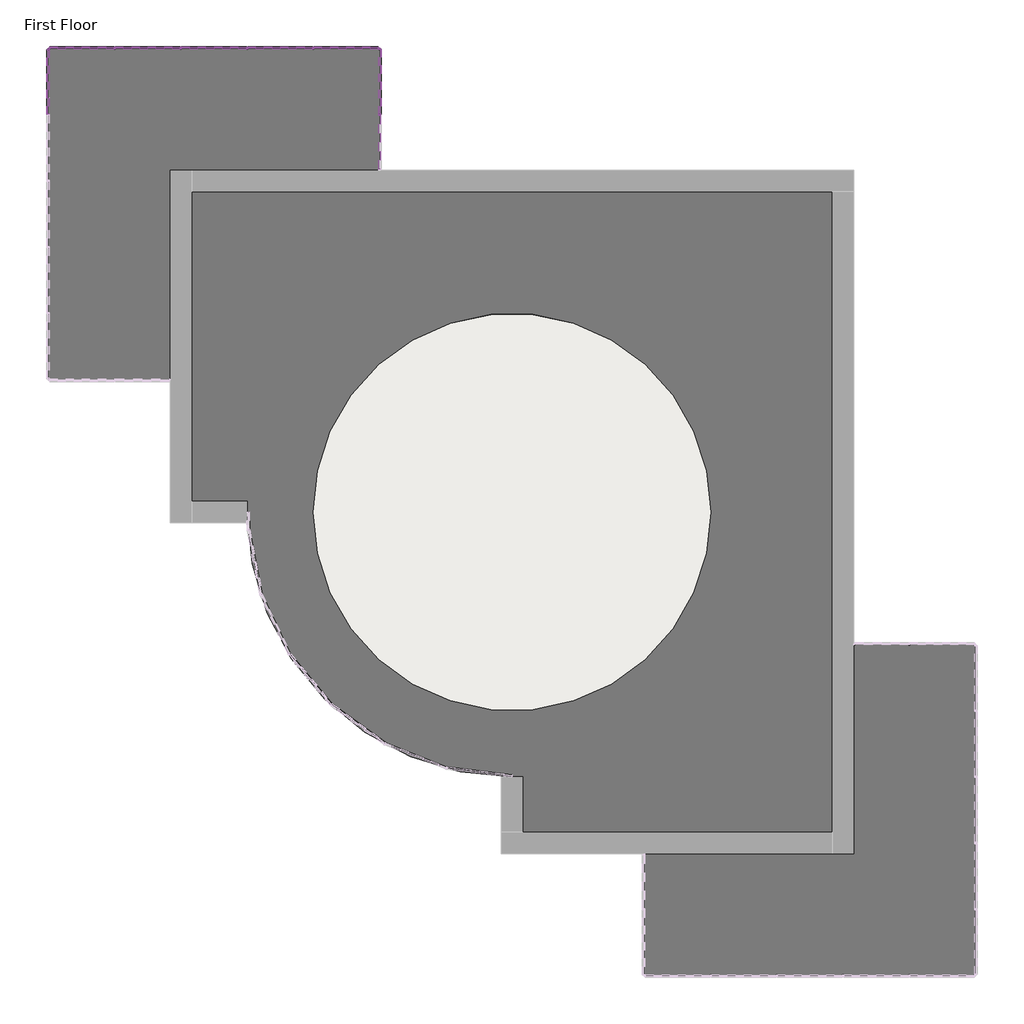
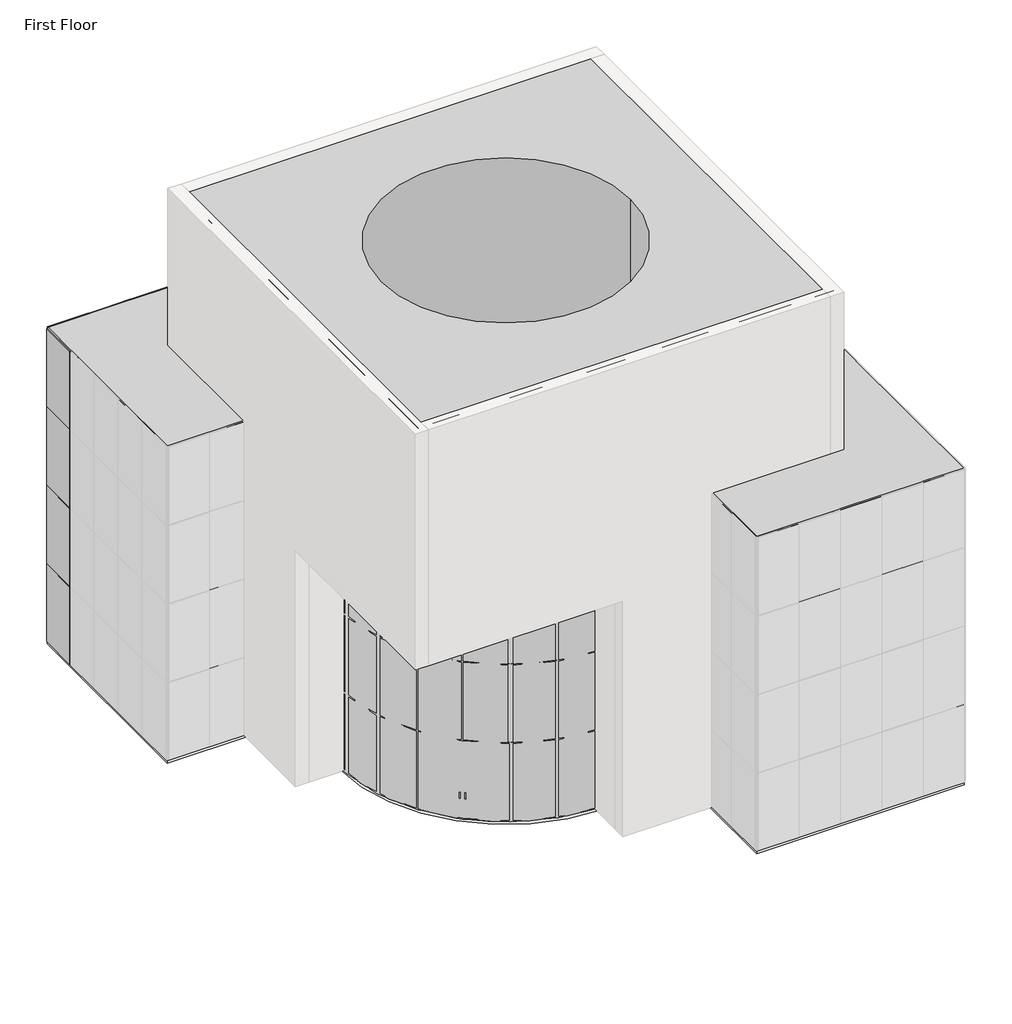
# One storey, part 4 of 4: 76 members, 28 plates, 4 slabs, 2 proxies.
"""IFC4 building model written with IfcOpenShell, lengths in millimetres."""

from ifc_helpers import new_model, si_unit, point, frame, frame_2d, origin, origin_with_axes, place, context, project, spatial, polyline, circle_curve, trimmed, segment, composite_curve, outline, extrude, transform, mapped, element, save
from ifc_brep_helpers import plane_surface, cylinder_surface, revolved_surface, advanced_brep
from components import member_5e617a80, member_74941792, member_cbdb9076, member_7e523723, member_9fd3d903, member_6604d1e0, member_e0356dda, member_be0b070d, system_panel_glazed_9b7d687a, system_panel_glazed_9a901b4a, system_panel_glazed_2d5e1d3d, system_panel_glazed_37964ea6

model = new_model("IFC4")

# Units and contexts
model_context = context("Model", 3, world=origin())
ifc_project = project(units=[si_unit("LENGTHUNIT", "METRE", prefix="MILLI")], contexts=[model_context])

# Site, building, storey
site = spatial("IfcSite", under=ifc_project)
building = spatial("IfcBuilding", under=site)
storey = spatial("IfcBuildingStorey", under=building, Name="First Floor", Elevation=0.0)

# Proxies
placement = place(None, origin())
element("IfcBuildingElementProxy", 1, Name="Central Hall : Central Hall", ObjectType="Central Hall : Central Hall", at=placement, inside=storey, context=model_context, shape_type="AdvancedBrep", body=[
    advanced_brep(
    [(5148.8943843, 6934.0139224, 18288.0), (-10091.1056157, 6934.0139224, 18288.0), (-10091.1056157, -8305.9860776, 18288.0), (5148.8943843, -8305.9860776, 18288.0), (2100.8943843, -685.9860776, 18288.0), (-7043.1056157, -685.9860776, 18288.0), (5148.8943843, 6934.0139224, 0.0), (5148.8943843, -8305.9860776, 0.0), (-2471.1056157, -8305.9860776, 0.0), (-2471.1056157, -6781.9860776, 0.0), (-8567.1056157, -685.9860776, 0.0), (-10091.1056157, -685.9860776, 0.0), (-10091.1056157, 6934.0139224, 0.0), (-7043.1056157, -685.9860776, 0.0), (2100.8943843, -685.9860776, 0.0), (-10091.1056157, -685.9860776, 9144.0), (-10091.1056157, -8305.9860776, 9144.0), (-2471.1056157, -8305.9860776, 9144.0), (-2471.1056157, -6781.9860776, 9144.0), (-8567.1056157, -685.9860776, 9144.0)],
    [
        (0, 1),
        (1, 2),
        (2, 3),
        (3, 0),
        (4, 5, circle_curve(frame((-2471.1056157, -685.9860776, 18288.0), z_axis=(0.0, 0.0, -1.0), x_axis=(1.0, 0.0, 0.0)), 4572.0)),
        (5, 4, circle_curve(frame((-2471.1056157, -685.9860776, 18288.0), z_axis=(0.0, 0.0, -1.0), x_axis=(1.0, 0.0, 0.0)), 4572.0)),
        (6, 7),
        (7, 8),
        (8, 9),
        (9, 10, circle_curve(frame((-2471.1056157, -685.9860776, 0.0), z_axis=(0.0, 0.0, -1.0), x_axis=(1.0, 0.0, 0.0)), 6096.0)),
        (10, 11),
        (11, 12),
        (12, 6),
        (13, 14, circle_curve(frame((-2471.1056157, -685.9860776, 0.0), z_axis=(0.0, 0.0, 1.0), x_axis=(1.0, 0.0, 0.0)), 4572.0)),
        (14, 13, circle_curve(frame((-2471.1056157, -685.9860776, 0.0), z_axis=(0.0, 0.0, 1.0), x_axis=(1.0, 0.0, 0.0)), 4572.0)),
        (0, 6),
        (12, 1),
        (11, 15),
        (15, 16),
        (16, 2),
        (16, 17),
        (17, 8),
        (7, 3),
        (4, 14),
        (13, 5),
        (18, 17),
        (15, 19),
        (19, 18, circle_curve(frame((-2471.1056157, -685.9860776, 9144.0), z_axis=(0.0, 0.0, 1.0), x_axis=(1.0, 0.0, 0.0)), 6096.0)),
        (19, 10),
        (9, 18),
    ],
    [
        plane_surface(frame((-10091.1056157, 6934.0139224, 18288.0), z_axis=(0.0, 0.0, 1.0), x_axis=(-1.0, 0.0, 0.0))),
        plane_surface(frame((-10091.1056157, 6934.0139224, 0.0), z_axis=(0.0, 0.0, -1.0), x_axis=(1.0, 0.0, 0.0))),
        plane_surface(frame((5148.8943843, 6934.0139224, 18288.0), z_axis=(0.0, 1.0, 0.0), x_axis=(0.0, 0.0, -1.0))),
        plane_surface(frame((-10091.1056157, 6934.0139224, 18288.0), z_axis=(-1.0, 0.0, 0.0), x_axis=(0.0, 0.0, -1.0))),
        plane_surface(frame((-10091.1056157, -8305.9860776, 18288.0), z_axis=(0.0, -1.0, 0.0), x_axis=(0.0, 0.0, -1.0))),
        plane_surface(frame((5148.8943843, -8305.9860776, 18288.0), z_axis=(1.0, 0.0, 0.0), x_axis=(0.0, 0.0, -1.0))),
        revolved_surface(polyline([(2100.8943843, -685.9860776, 18288.0), (2100.8943843, -685.9860776, 0.0)]), (-2471.1056157, -685.9860776, 0.0), (0.0, 0.0, 1.0)),
        plane_surface(frame((3624.8943843, -685.9860776, 9144.0), z_axis=(0.0, 0.0, -1.0), x_axis=(0.0, -1.0, 0.0))),
        cylinder_surface(frame((-2471.1056157, -685.9860776, 0.0), z_axis=(0.0, 0.0, -1.0), x_axis=(1.0, 0.0, 0.0)), 6096.0),
        plane_surface(frame((-8567.1056157, -685.9860776, 9144.0), z_axis=(0.0, -1.0, 0.0), x_axis=(0.0, 0.0, -1.0))),
        plane_surface(frame((-2471.1056157, -8305.9860776, 9144.0), z_axis=(-1.0, 0.0, 0.0), x_axis=(0.0, 0.0, -1.0))),
    ],
    [
        (0, [[1, 2, 3, 4], [5, 6]]),
        (1, [[7, 8, 9, 10, 11, 12, 13], [14, 15]]),
        (2, [[-1, 16, -13, 17]]),
        (3, [[-2, -17, -12, 18, 19, 20]]),
        (4, [[-3, -20, 21, 22, -8, 23]]),
        (5, [[-4, -23, -7, -16]]),
        (6, [[24, -14, 25, -5]]),
        (6, [[-24, -6, -25, -15]]),
        (7, [[26, -21, -19, 27, 28]]),
        (8, [[-28, 29, -10, 30]]),
        (9, [[-27, -18, -11, -29]]),
        (10, [[-26, -30, -9, -22]]),
    ],
),
])
element("IfcBuildingElementProxy", 2, Name="Wings : Wings", ObjectType="Wings : Wings", at=placement, inside=storey, context=model_context, shape_type="SweptSolid", body=[
    extrude(outline(polyline([(8196.8943843, -3733.9860776), (8196.8943843, -11353.9860776), (576.8943843, -11353.9860776), (576.8943843, -8305.9860776), (5148.8943843, -8305.9860776), (5148.8943843, -3733.9860776), (8196.8943843, -3733.9860776)])), origin_with_axes(), (0.0, 0.0, 1.0), 12192.0),
    extrude(outline(polyline([(-5519.1056157, 9982.0139224), (-5519.1056157, 6934.0139224), (-10091.1056157, 6934.0139224), (-10091.1056157, 2362.0139224), (-13139.1056157, 2362.0139224), (-13139.1056157, 9982.0139224), (-5519.1056157, 9982.0139224)])), origin_with_axes(), (0.0, 0.0, 1.0), 12192.0),
])

# Members
member_shape = member_5e617a80(model_context)
element("IfcMember", 3, ObjectType="Rectangular Mullion : 1\" Square", at=placement, inside=storey, context=model_context, shape_type="MappedRepresentation", body=[
    mapped(member_shape, transform((-13139.1056157, 8470.7139224, 9144.0), x_axis=(0.0, 0.0, 1.0), y_axis=(-1.0, 0.0, 0.0), z_axis=(0.0, -1.0, 0.0))),
])
element("IfcMember", 4, ObjectType="Rectangular Mullion : 1\" Square", at=placement, inside=storey, context=model_context, shape_type="MappedRepresentation", body=[
    mapped(member_shape, transform((-7030.4056157, 9982.0139224, 3048.0), x_axis=(0.0, 0.0, 1.0), y_axis=(0.0, 1.0, 0.0), z_axis=(-1.0, 0.0, 0.0))),
])
element("IfcMember", 5, ObjectType="Rectangular Mullion : 1\" Square", at=placement, inside=storey, context=model_context, shape_type="MappedRepresentation", body=[
    mapped(member_shape, transform((-13113.7056157, 9982.0139224, 3048.0), x_axis=(0.0, 0.0, 1.0), y_axis=(0.0, 1.0, 0.0), z_axis=(-1.0, 0.0, 0.0))),
])
element("IfcMember", 6, ObjectType="Rectangular Mullion : 1\" Square", at=placement, inside=storey, context=model_context, shape_type="MappedRepresentation", body=[
    mapped(member_shape, transform((-7030.4056157, 9982.0139224, 6096.0), x_axis=(0.0, 0.0, 1.0), y_axis=(0.0, 1.0, 0.0), z_axis=(-1.0, 0.0, 0.0))),
])
element("IfcMember", 7, ObjectType="Rectangular Mullion : 1\" Square", at=placement, inside=storey, context=model_context, shape_type="MappedRepresentation", body=[
    mapped(member_shape, transform((-13113.7056157, 9982.0139224, 6096.0), x_axis=(0.0, 0.0, 1.0), y_axis=(0.0, 1.0, 0.0), z_axis=(-1.0, 0.0, 0.0))),
])
element("IfcMember", 8, ObjectType="Rectangular Mullion : 1\" Square", at=placement, inside=storey, context=model_context, shape_type="MappedRepresentation", body=[
    mapped(member_shape, transform((-7030.4056157, 9982.0139224, 9144.0), x_axis=(0.0, 0.0, 1.0), y_axis=(0.0, 1.0, 0.0), z_axis=(-1.0, 0.0, 0.0))),
])
element("IfcMember", 9, ObjectType="Rectangular Mullion : 1\" Square", at=placement, inside=storey, context=model_context, shape_type="MappedRepresentation", body=[
    mapped(member_shape, transform((-13113.7056157, 9982.0139224, 9144.0), x_axis=(0.0, 0.0, 1.0), y_axis=(0.0, 1.0, 0.0), z_axis=(-1.0, 0.0, 0.0))),
])
member_2_shape = member_74941792(model_context)
element("IfcMember", 10, ObjectType="Rectangular Mullion : 1\" Square", at=placement, inside=storey, context=model_context, shape_type="MappedRepresentation", body=[
    mapped(member_2_shape, transform((-13113.7056157, 9982.0139224, 12192.0), x_axis=(0.0, 0.0, 1.0), y_axis=(0.0, 1.0, 0.0), z_axis=(-1.0, 0.0, 0.0))),
])
element("IfcMember", 11, ObjectType="Rectangular Mullion : 1\" Square", at=placement, inside=storey, context=model_context, shape_type="MappedRepresentation", body=[
    mapped(member_2_shape, transform((-7030.4056157, 9982.0139224, 12192.0), x_axis=(0.0, 0.0, 1.0), y_axis=(0.0, 1.0, 0.0), z_axis=(-1.0, 0.0, 0.0))),
])
member_3_shape = member_cbdb9076(model_context)
element("IfcMember", 12, ObjectType="Rectangular Mullion : 1\" Square", at=placement, inside=storey, context=model_context, shape_type="MappedRepresentation", body=[
    mapped(member_3_shape, transform((-8567.1056157, 9982.0139224, 6096.0), x_axis=(-1.0, 0.0, 0.0), y_axis=(0.0, 1.0, 0.0), z_axis=(0.0, 0.0, -1.0))),
])
element("IfcMember", 13, ObjectType="Rectangular Mullion : 1\" Square", at=placement, inside=storey, context=model_context, shape_type="MappedRepresentation", body=[
    mapped(member_3_shape, transform((-10091.1056157, 9982.0139224, 3048.0), x_axis=(-1.0, 0.0, 0.0), y_axis=(0.0, 1.0, 0.0), z_axis=(0.0, 0.0, -1.0))),
])
element("IfcMember", 14, ObjectType="Rectangular Mullion : 1\" Square", at=placement, inside=storey, context=model_context, shape_type="MappedRepresentation", body=[
    mapped(member_3_shape, transform((-10091.1056157, 9982.0139224, 6096.0), x_axis=(-1.0, 0.0, 0.0), y_axis=(0.0, 1.0, 0.0), z_axis=(0.0, 0.0, -1.0))),
])
element("IfcMember", 15, ObjectType="Rectangular Mullion : 1\" Square", at=placement, inside=storey, context=model_context, shape_type="MappedRepresentation", body=[
    mapped(member_3_shape, transform((-11615.1056157, 9982.0139224, 3048.0), x_axis=(-1.0, 0.0, 0.0), y_axis=(0.0, 1.0, 0.0), z_axis=(0.0, 0.0, -1.0))),
])
element("IfcMember", 16, ObjectType="Rectangular Mullion : 1\" Square", at=placement, inside=storey, context=model_context, shape_type="MappedRepresentation", body=[
    mapped(member_3_shape, transform((-11615.1056157, 9982.0139224, 6096.0), x_axis=(-1.0, 0.0, 0.0), y_axis=(0.0, 1.0, 0.0), z_axis=(0.0, 0.0, -1.0))),
])
element("IfcMember", 17, ObjectType="Rectangular Mullion : 1\" Square", at=placement, inside=storey, context=model_context, shape_type="MappedRepresentation", body=[
    mapped(member_3_shape, transform((-7043.1056157, 9982.0139224, 3048.0), x_axis=(-1.0, 0.0, 0.0), y_axis=(0.0, 1.0, 0.0), z_axis=(0.0, 0.0, -1.0))),
])
element("IfcMember", 18, ObjectType="Rectangular Mullion : 1\" Square", at=placement, inside=storey, context=model_context, shape_type="MappedRepresentation", body=[
    mapped(member_3_shape, transform((-7043.1056157, 9982.0139224, 6096.0), x_axis=(-1.0, 0.0, 0.0), y_axis=(0.0, 1.0, 0.0), z_axis=(0.0, 0.0, -1.0))),
])
element("IfcMember", 19, ObjectType="Rectangular Mullion : 1\" Square", at=placement, inside=storey, context=model_context, shape_type="MappedRepresentation", body=[
    mapped(member_3_shape, transform((-8567.1056157, 9982.0139224, 3048.0), x_axis=(-1.0, 0.0, 0.0), y_axis=(0.0, 1.0, 0.0), z_axis=(0.0, 0.0, -1.0))),
])
element("IfcMember", 20, ObjectType="Rectangular Mullion : 1\" Square", at=placement, inside=storey, context=model_context, shape_type="MappedRepresentation", body=[
    mapped(member_3_shape, transform((-5519.1056157, 9978.8389224, 3048.0), x_axis=(0.0, 1.0, 0.0), y_axis=(1.0, 0.0, 0.0), z_axis=(0.0, 0.0, -1.0))),
])
element("IfcMember", 21, ObjectType="Rectangular Mullion : 1\" Square", at=placement, inside=storey, context=model_context, shape_type="MappedRepresentation", body=[
    mapped(member_3_shape, transform((-5519.1056157, 9978.8389224, 6096.0), x_axis=(0.0, 1.0, 0.0), y_axis=(1.0, 0.0, 0.0), z_axis=(0.0, 0.0, -1.0))),
])
element("IfcMember", 22, ObjectType="Rectangular Mullion : 1\" Square", at=placement, inside=storey, context=model_context, shape_type="MappedRepresentation", body=[
    mapped(member_3_shape, transform((-5519.1056157, 8454.8389224, 3048.0), x_axis=(0.0, 1.0, 0.0), y_axis=(1.0, 0.0, 0.0), z_axis=(0.0, 0.0, -1.0))),
])
element("IfcMember", 23, ObjectType="Rectangular Mullion : 1\" Square", at=placement, inside=storey, context=model_context, shape_type="MappedRepresentation", body=[
    mapped(member_3_shape, transform((-5519.1056157, 8454.8389224, 6096.0), x_axis=(0.0, 1.0, 0.0), y_axis=(1.0, 0.0, 0.0), z_axis=(0.0, 0.0, -1.0))),
])
element("IfcMember", 24, ObjectType="Rectangular Mullion : 1\" Square", at=placement, inside=storey, context=model_context, shape_type="MappedRepresentation", body=[
    mapped(member_3_shape, transform((-8567.1056157, 9982.0139224, 9144.0), x_axis=(-1.0, 0.0, 0.0), y_axis=(0.0, 1.0, 0.0), z_axis=(0.0, 0.0, -1.0))),
])
element("IfcMember", 25, ObjectType="Rectangular Mullion : 1\" Square", at=placement, inside=storey, context=model_context, shape_type="MappedRepresentation", body=[
    mapped(member_3_shape, transform((-10091.1056157, 9982.0139224, 9144.0), x_axis=(-1.0, 0.0, 0.0), y_axis=(0.0, 1.0, 0.0), z_axis=(0.0, 0.0, -1.0))),
])
element("IfcMember", 26, ObjectType="Rectangular Mullion : 1\" Square", at=placement, inside=storey, context=model_context, shape_type="MappedRepresentation", body=[
    mapped(member_3_shape, transform((-11615.1056157, 9982.0139224, 9144.0), x_axis=(-1.0, 0.0, 0.0), y_axis=(0.0, 1.0, 0.0), z_axis=(0.0, 0.0, -1.0))),
])
element("IfcMember", 27, ObjectType="Rectangular Mullion : 1\" Square", at=placement, inside=storey, context=model_context, shape_type="MappedRepresentation", body=[
    mapped(member_3_shape, transform((-7043.1056157, 9982.0139224, 9144.0), x_axis=(-1.0, 0.0, 0.0), y_axis=(0.0, 1.0, 0.0), z_axis=(0.0, 0.0, -1.0))),
])
element("IfcMember", 28, ObjectType="Rectangular Mullion : 1\" Square", at=placement, inside=storey, context=model_context, shape_type="MappedRepresentation", body=[
    mapped(member_3_shape, transform((-5519.1056157, 9978.8389224, 9144.0), x_axis=(0.0, 1.0, 0.0), y_axis=(1.0, 0.0, 0.0), z_axis=(0.0, 0.0, -1.0))),
])
element("IfcMember", 29, ObjectType="Rectangular Mullion : 1\" Square", at=placement, inside=storey, context=model_context, shape_type="MappedRepresentation", body=[
    mapped(member_3_shape, transform((-5519.1056157, 8454.8389224, 9144.0), x_axis=(0.0, 1.0, 0.0), y_axis=(1.0, 0.0, 0.0), z_axis=(0.0, 0.0, -1.0))),
])
element("IfcMember", 30, ObjectType="Rectangular Mullion : 1\" Square", at=placement, inside=storey, context=model_context, shape_type="MappedRepresentation", body=[
    mapped(member_3_shape, transform((-7043.1056157, 9982.0139224, 0.0), x_axis=(-1.0, 0.0, 0.0), y_axis=(0.0, 1.0, 0.0), z_axis=(0.0, 0.0, -1.0))),
])
element("IfcMember", 31, ObjectType="Rectangular Mullion : 1\" Square", at=placement, inside=storey, context=model_context, shape_type="MappedRepresentation", body=[
    mapped(member_3_shape, transform((-8567.1056157, 9982.0139224, 0.0), x_axis=(-1.0, 0.0, 0.0), y_axis=(0.0, 1.0, 0.0), z_axis=(0.0, 0.0, -1.0))),
])
element("IfcMember", 32, ObjectType="Rectangular Mullion : 1\" Square", at=placement, inside=storey, context=model_context, shape_type="MappedRepresentation", body=[
    mapped(member_3_shape, transform((-10091.1056157, 9982.0139224, 0.0), x_axis=(-1.0, 0.0, 0.0), y_axis=(0.0, 1.0, 0.0), z_axis=(0.0, 0.0, -1.0))),
])
element("IfcMember", 33, ObjectType="Rectangular Mullion : 1\" Square", at=placement, inside=storey, context=model_context, shape_type="MappedRepresentation", body=[
    mapped(member_3_shape, transform((-11615.1056157, 9982.0139224, 0.0), x_axis=(-1.0, 0.0, 0.0), y_axis=(0.0, 1.0, 0.0), z_axis=(0.0, 0.0, -1.0))),
])
element("IfcMember", 34, ObjectType="Rectangular Mullion : 1\" Square", at=placement, inside=storey, context=model_context, shape_type="MappedRepresentation", body=[
    mapped(member_3_shape, transform((-5519.1056157, 9978.8389224, 0.0), x_axis=(0.0, 1.0, 0.0), y_axis=(1.0, 0.0, 0.0), z_axis=(0.0, 0.0, -1.0))),
])
element("IfcMember", 35, ObjectType="Rectangular Mullion : 1\" Square", at=placement, inside=storey, context=model_context, shape_type="MappedRepresentation", body=[
    mapped(member_3_shape, transform((-5519.1056157, 8454.8389224, 0.0), x_axis=(0.0, 1.0, 0.0), y_axis=(1.0, 0.0, 0.0), z_axis=(0.0, 0.0, -1.0))),
])
element("IfcMember", 36, ObjectType="Rectangular Mullion : 1\" Square", at=placement, inside=storey, context=model_context, shape_type="MappedRepresentation", body=[
    mapped(member_2_shape, transform((-13139.1056157, 9956.6139224, 0.0), x_axis=(0.0, 0.0, -1.0), y_axis=(-1.0, 0.0, 0.0), z_axis=(0.0, 1.0, 0.0))),
])
element("IfcMember", 37, ObjectType="Rectangular Mullion : 1\" Square", at=placement, inside=storey, context=model_context, shape_type="MappedRepresentation", body=[
    mapped(member_2_shape, transform((-5544.5056157, 9982.0139224, 0.0), x_axis=(0.0, 0.0, -1.0), y_axis=(0.0, 1.0, 0.0), z_axis=(1.0, 0.0, 0.0))),
])
element("IfcMember", 38, ObjectType="Rectangular Mullion : 1\" Square", at=placement, inside=storey, context=model_context, shape_type="MappedRepresentation", body=[
    mapped(member_2_shape, transform((-11627.8056157, 9982.0139224, 0.0), x_axis=(0.0, 0.0, -1.0), y_axis=(0.0, 1.0, 0.0), z_axis=(1.0, 0.0, 0.0))),
])
member_4_shape = member_7e523723(model_context)
element("IfcMember", 39, ObjectType="Rectangular Mullion : 1\" Square", at=placement, inside=storey, context=model_context, shape_type="MappedRepresentation", body=[
    mapped(member_4_shape, transform((-13139.1056157, 9982.0139224, 12192.0), x_axis=(0.0, 1.0, 0.0), y_axis=(-1.0, 0.0, 0.0), z_axis=(0.0, 0.0, 1.0))),
])
element("IfcMember", 40, ObjectType="Rectangular Mullion : 1\" Square", at=placement, inside=storey, context=model_context, shape_type="MappedRepresentation", body=[
    mapped(member_4_shape, transform((-5519.1056157, 9982.0139224, 12192.0), x_axis=(1.0, 0.0, 0.0), y_axis=(0.0, 1.0, 0.0), z_axis=(0.0, 0.0, 1.0))),
])
element("IfcMember", 41, ObjectType="Rectangular Mullion : 1\" Square", at=placement, inside=storey, context=model_context, shape_type="MappedRepresentation", body=[
    mapped(member_4_shape, transform((-13139.1056157, 9982.0139224, 3048.0), x_axis=(-1.0, 0.0, 0.0), y_axis=(0.0, 1.0, 0.0), z_axis=(0.0, 0.0, -1.0))),
])
element("IfcMember", 42, ObjectType="Rectangular Mullion : 1\" Square", at=placement, inside=storey, context=model_context, shape_type="MappedRepresentation", body=[
    mapped(member_4_shape, transform((-13139.1056157, 9982.0139224, 6096.0), x_axis=(-1.0, 0.0, 0.0), y_axis=(0.0, 1.0, 0.0), z_axis=(0.0, 0.0, -1.0))),
])
element("IfcMember", 43, ObjectType="Rectangular Mullion : 1\" Square", at=placement, inside=storey, context=model_context, shape_type="MappedRepresentation", body=[
    mapped(member_4_shape, transform((-13139.1056157, 9982.0139224, 9144.0), x_axis=(-1.0, 0.0, 0.0), y_axis=(0.0, 1.0, 0.0), z_axis=(0.0, 0.0, -1.0))),
])
element("IfcMember", 44, ObjectType="Rectangular Mullion : 1\" Square", at=placement, inside=storey, context=model_context, shape_type="MappedRepresentation", body=[
    mapped(member_4_shape, transform((-13139.1056157, 9982.0139224, 3048.0), x_axis=(0.0, 1.0, 0.0), y_axis=(-1.0, 0.0, 0.0), z_axis=(0.0, 0.0, 1.0))),
])
element("IfcMember", 45, ObjectType="Rectangular Mullion : 1\" Square", at=placement, inside=storey, context=model_context, shape_type="MappedRepresentation", body=[
    mapped(member_4_shape, transform((-5519.1056157, 9982.0139224, 3048.0), x_axis=(1.0, 0.0, 0.0), y_axis=(0.0, 1.0, 0.0), z_axis=(0.0, 0.0, 1.0))),
])
element("IfcMember", 46, ObjectType="Rectangular Mullion : 1\" Square", at=placement, inside=storey, context=model_context, shape_type="MappedRepresentation", body=[
    mapped(member_4_shape, transform((-13139.1056157, 9982.0139224, 6096.0), x_axis=(0.0, 1.0, 0.0), y_axis=(-1.0, 0.0, 0.0), z_axis=(0.0, 0.0, 1.0))),
])
element("IfcMember", 47, ObjectType="Rectangular Mullion : 1\" Square", at=placement, inside=storey, context=model_context, shape_type="MappedRepresentation", body=[
    mapped(member_4_shape, transform((-13139.1056157, 9982.0139224, 9144.0), x_axis=(0.0, 1.0, 0.0), y_axis=(-1.0, 0.0, 0.0), z_axis=(0.0, 0.0, 1.0))),
])
element("IfcMember", 48, ObjectType="Rectangular Mullion : 1\" Square", at=placement, inside=storey, context=model_context, shape_type="MappedRepresentation", body=[
    mapped(member_4_shape, transform((-5519.1056157, 9982.0139224, 6096.0), x_axis=(1.0, 0.0, 0.0), y_axis=(0.0, 1.0, 0.0), z_axis=(0.0, 0.0, 1.0))),
])
element("IfcMember", 49, ObjectType="Rectangular Mullion : 1\" Square", at=placement, inside=storey, context=model_context, shape_type="MappedRepresentation", body=[
    mapped(member_4_shape, transform((-5519.1056157, 9982.0139224, 9144.0), x_axis=(1.0, 0.0, 0.0), y_axis=(0.0, 1.0, 0.0), z_axis=(0.0, 0.0, 1.0))),
])
element("IfcMember", 50, ObjectType="Rectangular Mullion : 1\" Square", at=placement, inside=storey, context=model_context, shape_type="MappedRepresentation", body=[
    mapped(member_4_shape, transform((-13139.1056157, 9982.0139224, 0.0), x_axis=(-1.0, 0.0, 0.0), y_axis=(0.0, 1.0, 0.0), z_axis=(0.0, 0.0, -1.0))),
])
member_5_shape = member_9fd3d903(model_context)
element("IfcMember", 51, ObjectType="Rectangular Mullion : 1\" Square", at=placement, inside=storey, context=model_context, shape_type="MappedRepresentation", body=[
    mapped(member_5_shape, transform((-8554.4056157, 9982.0139224, 3048.0), x_axis=(0.0, 0.0, 1.0), y_axis=(0.0, 1.0, 0.0), z_axis=(-1.0, 0.0, 0.0))),
])
element("IfcMember", 52, ObjectType="Rectangular Mullion : 1\" Square", at=placement, inside=storey, context=model_context, shape_type="MappedRepresentation", body=[
    mapped(member_5_shape, transform((-10078.4056157, 9982.0139224, 3048.0), x_axis=(0.0, 0.0, 1.0), y_axis=(0.0, 1.0, 0.0), z_axis=(-1.0, 0.0, 0.0))),
])
element("IfcMember", 53, ObjectType="Rectangular Mullion : 1\" Square", at=placement, inside=storey, context=model_context, shape_type="MappedRepresentation", body=[
    mapped(member_5_shape, transform((-11602.4056157, 9982.0139224, 3048.0), x_axis=(0.0, 0.0, 1.0), y_axis=(0.0, 1.0, 0.0), z_axis=(-1.0, 0.0, 0.0))),
])
element("IfcMember", 54, ObjectType="Rectangular Mullion : 1\" Square", at=placement, inside=storey, context=model_context, shape_type="MappedRepresentation", body=[
    mapped(member_5_shape, transform((-8554.4056157, 9982.0139224, 6096.0), x_axis=(0.0, 0.0, 1.0), y_axis=(0.0, 1.0, 0.0), z_axis=(-1.0, 0.0, 0.0))),
])
element("IfcMember", 55, ObjectType="Rectangular Mullion : 1\" Square", at=placement, inside=storey, context=model_context, shape_type="MappedRepresentation", body=[
    mapped(member_5_shape, transform((-10078.4056157, 9982.0139224, 6096.0), x_axis=(0.0, 0.0, 1.0), y_axis=(0.0, 1.0, 0.0), z_axis=(-1.0, 0.0, 0.0))),
])
element("IfcMember", 56, ObjectType="Rectangular Mullion : 1\" Square", at=placement, inside=storey, context=model_context, shape_type="MappedRepresentation", body=[
    mapped(member_5_shape, transform((-11602.4056157, 9982.0139224, 6096.0), x_axis=(0.0, 0.0, 1.0), y_axis=(0.0, 1.0, 0.0), z_axis=(-1.0, 0.0, 0.0))),
])
element("IfcMember", 57, ObjectType="Rectangular Mullion : 1\" Square", at=placement, inside=storey, context=model_context, shape_type="MappedRepresentation", body=[
    mapped(member_5_shape, transform((-8554.4056157, 9982.0139224, 9144.0), x_axis=(0.0, 0.0, 1.0), y_axis=(0.0, 1.0, 0.0), z_axis=(-1.0, 0.0, 0.0))),
])
element("IfcMember", 58, ObjectType="Rectangular Mullion : 1\" Square", at=placement, inside=storey, context=model_context, shape_type="MappedRepresentation", body=[
    mapped(member_5_shape, transform((-10078.4056157, 9982.0139224, 9144.0), x_axis=(0.0, 0.0, 1.0), y_axis=(0.0, 1.0, 0.0), z_axis=(-1.0, 0.0, 0.0))),
])
element("IfcMember", 59, ObjectType="Rectangular Mullion : 1\" Square", at=placement, inside=storey, context=model_context, shape_type="MappedRepresentation", body=[
    mapped(member_5_shape, transform((-11602.4056157, 9982.0139224, 9144.0), x_axis=(0.0, 0.0, 1.0), y_axis=(0.0, 1.0, 0.0), z_axis=(-1.0, 0.0, 0.0))),
])
element("IfcMember", 60, ObjectType="Rectangular Mullion : 1\" Square", at=placement, inside=storey, context=model_context, shape_type="MappedRepresentation", body=[
    mapped(member_5_shape, transform((-5519.1056157, 9966.1389224, 3048.0), x_axis=(0.0, 0.0, 1.0), y_axis=(1.0, 0.0, 0.0), z_axis=(0.0, 1.0, 0.0))),
])
element("IfcMember", 61, ObjectType="Rectangular Mullion : 1\" Square", at=placement, inside=storey, context=model_context, shape_type="MappedRepresentation", body=[
    mapped(member_5_shape, transform((-5519.1056157, 9966.1389224, 6096.0), x_axis=(0.0, 0.0, 1.0), y_axis=(1.0, 0.0, 0.0), z_axis=(0.0, 1.0, 0.0))),
])
element("IfcMember", 62, ObjectType="Rectangular Mullion : 1\" Square", at=placement, inside=storey, context=model_context, shape_type="MappedRepresentation", body=[
    mapped(member_5_shape, transform((-5519.1056157, 9966.1389224, 9144.0), x_axis=(0.0, 0.0, 1.0), y_axis=(1.0, 0.0, 0.0), z_axis=(0.0, 1.0, 0.0))),
])
member_6_shape = member_6604d1e0(model_context)
element("IfcMember", 63, ObjectType="Rectangular Mullion : 1\" Square", at=placement, inside=storey, context=model_context, shape_type="MappedRepresentation", body=[
    mapped(member_6_shape, transform((-8554.4056157, 9982.0139224, 12192.0), x_axis=(0.0, 0.0, 1.0), y_axis=(0.0, 1.0, 0.0), z_axis=(-1.0, 0.0, 0.0))),
])
element("IfcMember", 64, ObjectType="Rectangular Mullion : 1\" Square", at=placement, inside=storey, context=model_context, shape_type="MappedRepresentation", body=[
    mapped(member_6_shape, transform((-10078.4056157, 9982.0139224, 12192.0), x_axis=(0.0, 0.0, 1.0), y_axis=(0.0, 1.0, 0.0), z_axis=(-1.0, 0.0, 0.0))),
])
element("IfcMember", 65, ObjectType="Rectangular Mullion : 1\" Square", at=placement, inside=storey, context=model_context, shape_type="MappedRepresentation", body=[
    mapped(member_6_shape, transform((-11602.4056157, 9982.0139224, 12192.0), x_axis=(0.0, 0.0, 1.0), y_axis=(0.0, 1.0, 0.0), z_axis=(-1.0, 0.0, 0.0))),
])
element("IfcMember", 66, ObjectType="Rectangular Mullion : 1\" Square", at=placement, inside=storey, context=model_context, shape_type="MappedRepresentation", body=[
    mapped(member_6_shape, transform((-5519.1056157, 9966.1389224, 12192.0), x_axis=(0.0, 0.0, 1.0), y_axis=(1.0, 0.0, 0.0), z_axis=(0.0, 1.0, 0.0))),
])
element("IfcMember", 67, ObjectType="Rectangular Mullion : 1\" Square", at=placement, inside=storey, context=model_context, shape_type="MappedRepresentation", body=[
    mapped(member_6_shape, transform((-7055.8056157, 9982.0139224, 0.0), x_axis=(0.0, 0.0, -1.0), y_axis=(0.0, 1.0, 0.0), z_axis=(1.0, 0.0, 0.0))),
])
element("IfcMember", 68, ObjectType="Rectangular Mullion : 1\" Square", at=placement, inside=storey, context=model_context, shape_type="MappedRepresentation", body=[
    mapped(member_6_shape, transform((-8579.8056157, 9982.0139224, 0.0), x_axis=(0.0, 0.0, -1.0), y_axis=(0.0, 1.0, 0.0), z_axis=(1.0, 0.0, 0.0))),
])
element("IfcMember", 69, ObjectType="Rectangular Mullion : 1\" Square", at=placement, inside=storey, context=model_context, shape_type="MappedRepresentation", body=[
    mapped(member_6_shape, transform((-10103.8056157, 9982.0139224, 0.0), x_axis=(0.0, 0.0, -1.0), y_axis=(0.0, 1.0, 0.0), z_axis=(1.0, 0.0, 0.0))),
])
element("IfcMember", 70, ObjectType="Rectangular Mullion : 1\" Square", at=placement, inside=storey, context=model_context, shape_type="MappedRepresentation", body=[
    mapped(member_6_shape, transform((-5519.1056157, 8467.5389224, 0.0), x_axis=(0.0, 0.0, -1.0), y_axis=(1.0, 0.0, 0.0), z_axis=(0.0, -1.0, 0.0))),
])
member_7_shape = member_e0356dda(model_context)
element("IfcMember", 71, ObjectType="Rectangular Mullion : 1\" Square", at=placement, inside=storey, context=model_context, shape_type="MappedRepresentation", body=[
    mapped(member_7_shape, transform((-5519.1056157, 8442.1389224, 3048.0), x_axis=(0.0, 0.0, 1.0), y_axis=(1.0, 0.0, 0.0), z_axis=(0.0, 1.0, 0.0))),
])
element("IfcMember", 72, ObjectType="Rectangular Mullion : 1\" Square", at=placement, inside=storey, context=model_context, shape_type="MappedRepresentation", body=[
    mapped(member_7_shape, transform((-5519.1056157, 8442.1389224, 6096.0), x_axis=(0.0, 0.0, 1.0), y_axis=(1.0, 0.0, 0.0), z_axis=(0.0, 1.0, 0.0))),
])
element("IfcMember", 73, ObjectType="Rectangular Mullion : 1\" Square", at=placement, inside=storey, context=model_context, shape_type="MappedRepresentation", body=[
    mapped(member_7_shape, transform((-5519.1056157, 8442.1389224, 9144.0), x_axis=(0.0, 0.0, 1.0), y_axis=(1.0, 0.0, 0.0), z_axis=(0.0, 1.0, 0.0))),
])
member_8_shape = member_be0b070d(model_context)
element("IfcMember", 74, ObjectType="Rectangular Mullion : 1\" Square", at=placement, inside=storey, context=model_context, shape_type="MappedRepresentation", body=[
    mapped(member_8_shape, transform((-5519.1056157, 8442.1389224, 12192.0), x_axis=(0.0, 0.0, 1.0), y_axis=(1.0, 0.0, 0.0), z_axis=(0.0, 1.0, 0.0))),
])
element("IfcMember", 75, ObjectType="Rectangular Mullion : 1\" Square", at=placement, inside=storey, context=model_context, shape_type="MappedRepresentation", body=[
    mapped(member_4_shape, transform((-5519.1056157, 9982.0139224, 3048.0), x_axis=(0.0, 1.0, 0.0), y_axis=(1.0, 0.0, 0.0), z_axis=(0.0, 0.0, -1.0))),
])
element("IfcMember", 76, ObjectType="Rectangular Mullion : 1\" Square", at=placement, inside=storey, context=model_context, shape_type="MappedRepresentation", body=[
    mapped(member_4_shape, transform((-5519.1056157, 9982.0139224, 6096.0), x_axis=(0.0, 1.0, 0.0), y_axis=(1.0, 0.0, 0.0), z_axis=(0.0, 0.0, -1.0))),
])
element("IfcMember", 77, ObjectType="Rectangular Mullion : 1\" Square", at=placement, inside=storey, context=model_context, shape_type="MappedRepresentation", body=[
    mapped(member_4_shape, transform((-5519.1056157, 9982.0139224, 9144.0), x_axis=(0.0, 1.0, 0.0), y_axis=(1.0, 0.0, 0.0), z_axis=(0.0, 0.0, -1.0))),
])
element("IfcMember", 78, ObjectType="Rectangular Mullion : 1\" Square", at=placement, inside=storey, context=model_context, shape_type="MappedRepresentation", body=[
    mapped(member_4_shape, transform((-5519.1056157, 9982.0139224, 0.0), x_axis=(0.0, 1.0, 0.0), y_axis=(1.0, 0.0, 0.0), z_axis=(0.0, 0.0, -1.0))),
])

# Plates
system_panel_glazed_shape = system_panel_glazed_9b7d687a(model_context)
element("IfcPlate", 79, ObjectType="System Panel : Glazed", at=placement, inside=storey, context=model_context, shape_type="MappedRepresentation", body=[
    mapped(system_panel_glazed_shape, transform((-13139.1056157, 9213.6639224, 25.4), x_axis=(0.0, -1.0, 0.0), y_axis=(1.0, 0.0, 0.0), z_axis=(0.0, 0.0, 1.0))),
])
element("IfcPlate", 80, ObjectType="System Panel : Glazed", at=placement, inside=storey, context=model_context, shape_type="MappedRepresentation", body=[
    mapped(system_panel_glazed_shape, transform((-13139.1056157, 9213.6639224, 9156.7), x_axis=(0.0, -1.0, 0.0), y_axis=(1.0, 0.0, 0.0), z_axis=(0.0, 0.0, 1.0))),
])
element("IfcPlate", 81, ObjectType="System Panel : Glazed", at=placement, inside=storey, context=model_context, shape_type="MappedRepresentation", body=[
    mapped(system_panel_glazed_shape, transform((-6287.4556157, 9982.0139224, 25.4), x_axis=(-1.0, 0.0, 0.0), y_axis=(0.0, -1.0, 0.0), z_axis=(0.0, 0.0, 1.0))),
])
element("IfcPlate", 82, ObjectType="System Panel : Glazed", at=placement, inside=storey, context=model_context, shape_type="MappedRepresentation", body=[
    mapped(system_panel_glazed_shape, transform((-12370.7556157, 9982.0139224, 25.4), x_axis=(-1.0, 0.0, 0.0), y_axis=(0.0, -1.0, 0.0), z_axis=(0.0, 0.0, 1.0))),
])
element("IfcPlate", 83, ObjectType="System Panel : Glazed", at=placement, inside=storey, context=model_context, shape_type="MappedRepresentation", body=[
    mapped(system_panel_glazed_shape, transform((-6287.4556157, 9982.0139224, 9156.7), x_axis=(-1.0, 0.0, 0.0), y_axis=(0.0, -1.0, 0.0), z_axis=(0.0, 0.0, 1.0))),
])
element("IfcPlate", 84, ObjectType="System Panel : Glazed", at=placement, inside=storey, context=model_context, shape_type="MappedRepresentation", body=[
    mapped(system_panel_glazed_shape, transform((-12370.7556157, 9982.0139224, 9156.7), x_axis=(-1.0, 0.0, 0.0), y_axis=(0.0, -1.0, 0.0), z_axis=(0.0, 0.0, 1.0))),
])
system_panel_glazed_2_shape = system_panel_glazed_9a901b4a(model_context)
element("IfcPlate", 85, ObjectType="System Panel : Glazed", at=placement, inside=storey, context=model_context, shape_type="MappedRepresentation", body=[
    mapped(system_panel_glazed_2_shape, transform((-13139.1056157, 9213.6639224, 3060.7), x_axis=(0.0, -1.0, 0.0), y_axis=(1.0, 0.0, 0.0), z_axis=(0.0, 0.0, 1.0))),
])
element("IfcPlate", 86, ObjectType="System Panel : Glazed", at=placement, inside=storey, context=model_context, shape_type="MappedRepresentation", body=[
    mapped(system_panel_glazed_2_shape, transform((-13139.1056157, 9213.6639224, 6108.7), x_axis=(0.0, -1.0, 0.0), y_axis=(1.0, 0.0, 0.0), z_axis=(0.0, 0.0, 1.0))),
])
element("IfcPlate", 87, ObjectType="System Panel : Glazed", at=placement, inside=storey, context=model_context, shape_type="MappedRepresentation", body=[
    mapped(system_panel_glazed_2_shape, transform((-6287.4556157, 9982.0139224, 3060.7), x_axis=(-1.0, 0.0, 0.0), y_axis=(0.0, -1.0, 0.0), z_axis=(0.0, 0.0, 1.0))),
])
element("IfcPlate", 88, ObjectType="System Panel : Glazed", at=placement, inside=storey, context=model_context, shape_type="MappedRepresentation", body=[
    mapped(system_panel_glazed_2_shape, transform((-12370.7556157, 9982.0139224, 3060.7), x_axis=(-1.0, 0.0, 0.0), y_axis=(0.0, -1.0, 0.0), z_axis=(0.0, 0.0, 1.0))),
])
element("IfcPlate", 89, ObjectType="System Panel : Glazed", at=placement, inside=storey, context=model_context, shape_type="MappedRepresentation", body=[
    mapped(system_panel_glazed_2_shape, transform((-6287.4556157, 9982.0139224, 6108.7), x_axis=(-1.0, 0.0, 0.0), y_axis=(0.0, -1.0, 0.0), z_axis=(0.0, 0.0, 1.0))),
])
element("IfcPlate", 90, ObjectType="System Panel : Glazed", at=placement, inside=storey, context=model_context, shape_type="MappedRepresentation", body=[
    mapped(system_panel_glazed_2_shape, transform((-12370.7556157, 9982.0139224, 6108.7), x_axis=(-1.0, 0.0, 0.0), y_axis=(0.0, -1.0, 0.0), z_axis=(0.0, 0.0, 1.0))),
])
system_panel_glazed_3_shape = system_panel_glazed_2d5e1d3d(model_context)
element("IfcPlate", 91, ObjectType="System Panel : Glazed", at=placement, inside=storey, context=model_context, shape_type="MappedRepresentation", body=[
    mapped(system_panel_glazed_3_shape, transform((-7805.1056157, 9982.0139224, 25.4), x_axis=(-1.0, 0.0, 0.0), y_axis=(0.0, -1.0, 0.0), z_axis=(0.0, 0.0, 1.0))),
])
element("IfcPlate", 92, ObjectType="System Panel : Glazed", at=placement, inside=storey, context=model_context, shape_type="MappedRepresentation", body=[
    mapped(system_panel_glazed_3_shape, transform((-9329.1056157, 9982.0139224, 25.4), x_axis=(-1.0, 0.0, 0.0), y_axis=(0.0, -1.0, 0.0), z_axis=(0.0, 0.0, 1.0))),
])
element("IfcPlate", 93, ObjectType="System Panel : Glazed", at=placement, inside=storey, context=model_context, shape_type="MappedRepresentation", body=[
    mapped(system_panel_glazed_3_shape, transform((-10853.1056157, 9982.0139224, 25.4), x_axis=(-1.0, 0.0, 0.0), y_axis=(0.0, -1.0, 0.0), z_axis=(0.0, 0.0, 1.0))),
])
element("IfcPlate", 94, ObjectType="System Panel : Glazed", at=placement, inside=storey, context=model_context, shape_type="MappedRepresentation", body=[
    mapped(system_panel_glazed_3_shape, transform((-7805.1056157, 9982.0139224, 9156.7), x_axis=(-1.0, 0.0, 0.0), y_axis=(0.0, -1.0, 0.0), z_axis=(0.0, 0.0, 1.0))),
])
element("IfcPlate", 95, ObjectType="System Panel : Glazed", at=placement, inside=storey, context=model_context, shape_type="MappedRepresentation", body=[
    mapped(system_panel_glazed_3_shape, transform((-9329.1056157, 9982.0139224, 9156.7), x_axis=(-1.0, 0.0, 0.0), y_axis=(0.0, -1.0, 0.0), z_axis=(0.0, 0.0, 1.0))),
])
element("IfcPlate", 96, ObjectType="System Panel : Glazed", at=placement, inside=storey, context=model_context, shape_type="MappedRepresentation", body=[
    mapped(system_panel_glazed_3_shape, transform((-10853.1056157, 9982.0139224, 9156.7), x_axis=(-1.0, 0.0, 0.0), y_axis=(0.0, -1.0, 0.0), z_axis=(0.0, 0.0, 1.0))),
])
element("IfcPlate", 97, ObjectType="System Panel : Glazed", at=placement, inside=storey, context=model_context, shape_type="MappedRepresentation", body=[
    mapped(system_panel_glazed_3_shape, transform((-5519.1056157, 9216.8389224, 25.4), x_axis=(0.0, 1.0, 0.0), y_axis=(-1.0, 0.0, 0.0), z_axis=(0.0, 0.0, 1.0))),
])
element("IfcPlate", 98, ObjectType="System Panel : Glazed", at=placement, inside=storey, context=model_context, shape_type="MappedRepresentation", body=[
    mapped(system_panel_glazed_3_shape, transform((-5519.1056157, 9216.8389224, 9156.7), x_axis=(0.0, 1.0, 0.0), y_axis=(-1.0, 0.0, 0.0), z_axis=(0.0, 0.0, 1.0))),
])
system_panel_glazed_4_shape = system_panel_glazed_37964ea6(model_context)
element("IfcPlate", 99, ObjectType="System Panel : Glazed", at=placement, inside=storey, context=model_context, shape_type="MappedRepresentation", body=[
    mapped(system_panel_glazed_4_shape, transform((-7805.1056157, 9982.0139224, 3060.7), x_axis=(-1.0, 0.0, 0.0), y_axis=(0.0, -1.0, 0.0), z_axis=(0.0, 0.0, 1.0))),
])
element("IfcPlate", 100, ObjectType="System Panel : Glazed", at=placement, inside=storey, context=model_context, shape_type="MappedRepresentation", body=[
    mapped(system_panel_glazed_4_shape, transform((-9329.1056157, 9982.0139224, 3060.7), x_axis=(-1.0, 0.0, 0.0), y_axis=(0.0, -1.0, 0.0), z_axis=(0.0, 0.0, 1.0))),
])
element("IfcPlate", 101, ObjectType="System Panel : Glazed", at=placement, inside=storey, context=model_context, shape_type="MappedRepresentation", body=[
    mapped(system_panel_glazed_4_shape, transform((-10853.1056157, 9982.0139224, 3060.7), x_axis=(-1.0, 0.0, 0.0), y_axis=(0.0, -1.0, 0.0), z_axis=(0.0, 0.0, 1.0))),
])
element("IfcPlate", 102, ObjectType="System Panel : Glazed", at=placement, inside=storey, context=model_context, shape_type="MappedRepresentation", body=[
    mapped(system_panel_glazed_4_shape, transform((-7805.1056157, 9982.0139224, 6108.7), x_axis=(-1.0, 0.0, 0.0), y_axis=(0.0, -1.0, 0.0), z_axis=(0.0, 0.0, 1.0))),
])
element("IfcPlate", 103, ObjectType="System Panel : Glazed", at=placement, inside=storey, context=model_context, shape_type="MappedRepresentation", body=[
    mapped(system_panel_glazed_4_shape, transform((-9329.1056157, 9982.0139224, 6108.7), x_axis=(-1.0, 0.0, 0.0), y_axis=(0.0, -1.0, 0.0), z_axis=(0.0, 0.0, 1.0))),
])
element("IfcPlate", 104, ObjectType="System Panel : Glazed", at=placement, inside=storey, context=model_context, shape_type="MappedRepresentation", body=[
    mapped(system_panel_glazed_4_shape, transform((-10853.1056157, 9982.0139224, 6108.7), x_axis=(-1.0, 0.0, 0.0), y_axis=(0.0, -1.0, 0.0), z_axis=(0.0, 0.0, 1.0))),
])
element("IfcPlate", 105, ObjectType="System Panel : Glazed", at=placement, inside=storey, context=model_context, shape_type="MappedRepresentation", body=[
    mapped(system_panel_glazed_4_shape, transform((-5519.1056157, 9216.8389224, 3060.7), x_axis=(0.0, 1.0, 0.0), y_axis=(-1.0, 0.0, 0.0), z_axis=(0.0, 0.0, 1.0))),
])
element("IfcPlate", 106, ObjectType="System Panel : Glazed", at=placement, inside=storey, context=model_context, shape_type="MappedRepresentation", body=[
    mapped(system_panel_glazed_4_shape, transform((-5519.1056157, 9216.8389224, 6108.7), x_axis=(0.0, 1.0, 0.0), y_axis=(-1.0, 0.0, 0.0), z_axis=(0.0, 0.0, 1.0))),
])

# Slabs
element("IfcSlab", 107, ObjectType="LW Concrete on Metal Deck", at=placement, inside=storey, context=model_context, shape_type="SweptSolid", body=[
    extrude(outline(composite_curve([segment(polyline([(5148.8943843, 6934.0139224), (5148.8943843, -8305.9860776), (-2471.1056157, -8305.9860776), (-2471.1056157, -6781.9860776)]), True, "CONTINUOUS"), segment(trimmed(circle_curve(frame_2d((-2471.1056157, -685.9860776)), 6096.0), [point((-2471.1056157, -6781.9860776))], [point((-8567.1056157, -685.9860776))], False, "CARTESIAN"), True, "CONTINUOUS"), segment(polyline([(-8567.1056157, -685.9860776), (-10091.1056157, -685.9860776), (-10091.1056157, 6934.0139224), (5148.8943843, 6934.0139224)]), True, "CONTINUOUS")], self_intersect=False), holes=[composite_curve([segment(trimmed(circle_curve(frame_2d((-2471.1056157, -685.9860776)), 4572.0), [point((2100.8943843, -685.9860776))], [point((-7043.1056157, -685.9860776))], True, "CARTESIAN"), True, "CONTINUOUS"), segment(trimmed(circle_curve(frame_2d((-2471.1056157, -685.9860776)), 4572.0), [point((-7043.1056157, -685.9860776))], [point((2100.8943843, -685.9860776))], True, "CARTESIAN"), True, "CONTINUOUS")], self_intersect=False)]), frame((0.0, 0.0, -104.775), z_axis=(0.0, 0.0, 1.0), x_axis=(1.0, 0.0, 0.0)), (0.0, 0.0, 1.0), 104.775),
])
element("IfcSlab", 108, ObjectType="LW Concrete on Metal Deck", at=placement, inside=storey, context=model_context, shape_type="SweptSolid", body=[
    extrude(outline(polyline([(8196.8943843, -3733.9860776), (8196.8943843, -11353.9860776), (576.8943843, -11353.9860776), (576.8943843, -8305.9860776), (5148.8943843, -8305.9860776), (5148.8943843, -3733.9860776), (8196.8943843, -3733.9860776)])), frame((0.0, 0.0, -104.775), z_axis=(0.0, 0.0, 1.0), x_axis=(1.0, 0.0, 0.0)), (0.0, 0.0, 1.0), 104.775),
    extrude(outline(polyline([(-5519.1056157, 9982.0139224), (-5519.1056157, 6934.0139224), (-10091.1056157, 6934.0139224), (-10091.1056157, 2362.0139224), (-13139.1056157, 2362.0139224), (-13139.1056157, 9982.0139224), (-5519.1056157, 9982.0139224)])), frame((0.0, 0.0, -104.775), z_axis=(0.0, 0.0, 1.0), x_axis=(1.0, 0.0, 0.0)), (0.0, 0.0, 1.0), 104.775),
])
element("IfcSlab", 109, ObjectType="LW Concrete on Metal Deck", at=placement, inside=storey, context=model_context, shape_type="SweptSolid", body=[
    extrude(outline(composite_curve([segment(polyline([(5148.8943843, 6934.0139224), (5148.8943843, -8305.9860776), (-2471.1056157, -8305.9860776), (-2471.1056157, -6781.9860776)]), True, "CONTINUOUS"), segment(trimmed(circle_curve(frame_2d((-2471.1056157, -685.9860776)), 6096.0), [point((-2471.1056157, -6781.9860776))], [point((-8567.1056157, -685.9860776))], False, "CARTESIAN"), True, "CONTINUOUS"), segment(polyline([(-8567.1056157, -685.9860776), (-10091.1056157, -685.9860776), (-10091.1056157, 6934.0139224), (5148.8943843, 6934.0139224)]), True, "CONTINUOUS")], self_intersect=False)), frame((0.0, 0.0, -104.775), z_axis=(0.0, 0.0, 1.0), x_axis=(1.0, 0.0, 0.0)), (0.0, 0.0, 1.0), 104.775),
])
element("IfcSlab", 110, ObjectType="LW Concrete on Metal Deck", at=placement, inside=storey, context=model_context, shape_type="SweptSolid", body=[
    extrude(outline(polyline([(8196.8943843, -3733.9860776), (8196.8943843, -11353.9860776), (576.8943843, -11353.9860776), (576.8943843, -8305.9860776), (5148.8943843, -8305.9860776), (5148.8943843, -3733.9860776), (8196.8943843, -3733.9860776)])), frame((0.0, 0.0, -104.775), z_axis=(0.0, 0.0, 1.0), x_axis=(1.0, 0.0, 0.0)), (0.0, 0.0, 1.0), 104.775),
    extrude(outline(polyline([(-5519.1056157, 9982.0139224), (-5519.1056157, 6934.0139224), (-10091.1056157, 6934.0139224), (-10091.1056157, 2362.0139224), (-13139.1056157, 2362.0139224), (-13139.1056157, 9982.0139224), (-5519.1056157, 9982.0139224)])), frame((0.0, 0.0, -104.775), z_axis=(0.0, 0.0, 1.0), x_axis=(1.0, 0.0, 0.0)), (0.0, 0.0, 1.0), 104.775),
])

save(model, "model.ifc")
